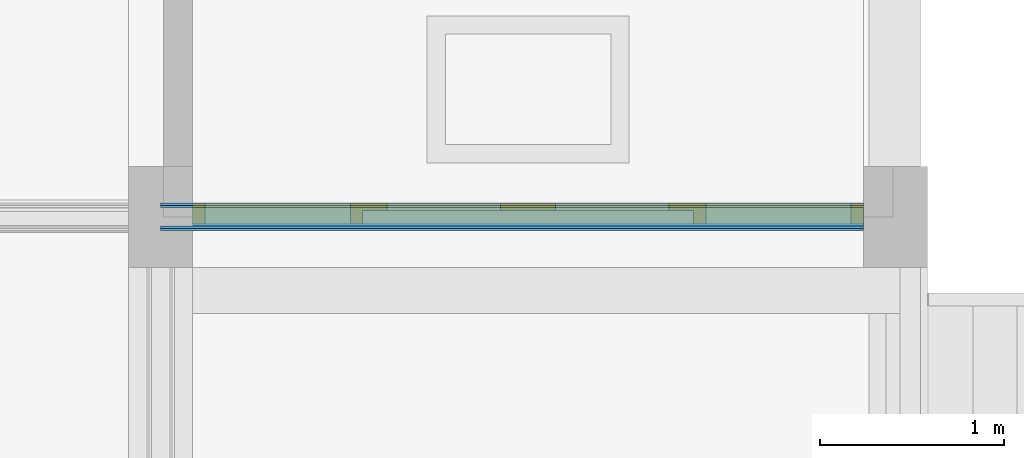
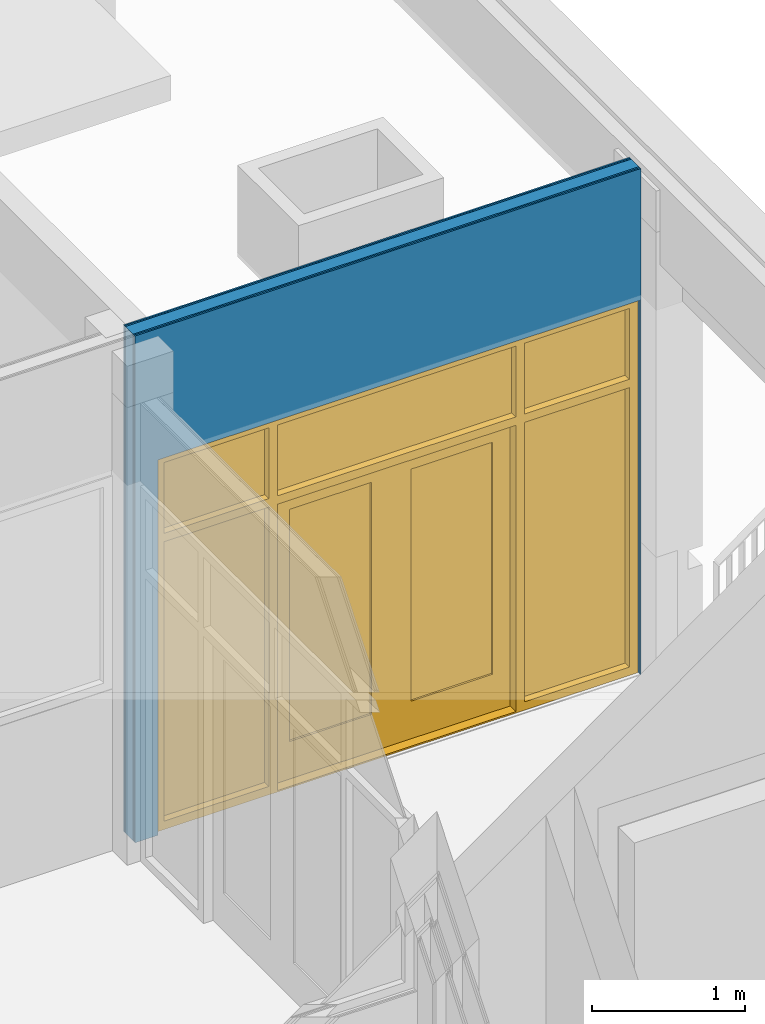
# One storey, part 42 of 54: 5 building element parts, 1 door, 1 opening, 1 element without a shape of its own.
"""IFC2X3 building model written with IfcOpenShell, lengths in millimetres."""

from ifc_helpers import new_model, entity, si_unit, converted_unit, derived_unit, money_unit, direction, frame, origin_with_axes, place, context, subcontext, project, spatial, open_shell, faceted_brep, surface_model, material, type_object, element, fill, aggregate, save


model = new_model("IFC2X3")

# Units and contexts
model_context = context("Model", 3, precision=0.01, world=origin_with_axes(), true_north=direction((0.0, 1.0)))
body_context = subcontext(model_context, "Body", "Model", "MODEL_VIEW")
ifc_project = project(units=[si_unit("LENGTHUNIT", "METRE", prefix="MILLI"), si_unit("AREAUNIT", "SQUARE_METRE"), si_unit("VOLUMEUNIT", "CUBIC_METRE"), converted_unit("PLANEANGLEUNIT", "DEGREE", entity("IfcPlaneAngleMeasure", 0.0174532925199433), si_unit("PLANEANGLEUNIT", "RADIAN"), dimensions=[0, 0, 0, 0, 0, 0, 0]), money_unit("EUR"), converted_unit("TIMEUNIT", "Year", entity("IfcTimeMeasure", 31557600.0), si_unit("TIMEUNIT", "SECOND"), dimensions=[0, 0, 1, 0, 0, 0, 0]), si_unit("MASSUNIT", "GRAM", prefix="KILO"), si_unit("THERMODYNAMICTEMPERATUREUNIT", "DEGREE_CELSIUS"), si_unit("LUMINOUSINTENSITYUNIT", "LUMEN"), si_unit("ENERGYUNIT", "JOULE", prefix="MEGA"), derived_unit("THERMALCONDUCTANCEUNIT", [(si_unit("POWERUNIT", "WATT"), 1), (si_unit("LENGTHUNIT", "METRE"), -1), (si_unit("THERMODYNAMICTEMPERATUREUNIT", "KELVIN"), -1)]), derived_unit("SPECIFICHEATCAPACITYUNIT", [(si_unit("ENERGYUNIT", "JOULE"), 1), (si_unit("MASSUNIT", "GRAM", prefix="KILO"), -1), (si_unit("THERMODYNAMICTEMPERATUREUNIT", "KELVIN"), -1)]), derived_unit("MASSDENSITYUNIT", [(si_unit("MASSUNIT", "GRAM", prefix="KILO"), 1), (si_unit("VOLUMEUNIT", "CUBIC_METRE"), -1)])], contexts=[model_context])

# Site, building, storey
site_placement = place(None, origin_with_axes())
site = spatial("IfcSite", under=ifc_project, at=site_placement, Name="<site naam>", CompositionType="ELEMENT")
building_placement = place(site_placement, origin_with_axes())
building = spatial("IfcBuilding", under=site, at=building_placement, Name="<Naam gebouw>", CompositionType="ELEMENT")
storey_placement = place(building_placement, frame((0.0, 0.0, 8500.0), z_axis=(0.0, 0.0, 1.0), x_axis=(1.0, 0.0, 0.0)))
storey = spatial("IfcBuildingStorey", under=building, at=storey_placement, Name="02 2e verdieping", CompositionType="ELEMENT", Elevation=8500.0)

# Door
door_style = type_object("IfcDoorStyle", Name="D2 bl zl2 27", ConstructionType="NOTDEFINED", OperationType="USERDEFINED", ParameterTakesPrecedence=False, Sizeable=False)
wall_placement = place(storey_placement, frame((48000.00000000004, 12000.00000000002, 0.0), z_axis=(0.0, 0.0, 1.0), x_axis=(1.0, 0.0, 0.0)))
opening_placement = place(wall_placement, frame((1999.936341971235, 0.0, 0.0), z_axis=(0.0, 0.0, 1.0), x_axis=(1.0, 0.0, 0.0)))
door_placement = place(opening_placement, frame((-1824.999978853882, 0.0, 0.0), z_axis=(0.0, 0.0, 1.0), x_axis=(1.0, 0.0, 0.0)))
door = element("IfcDoor", 1, at=door_placement, inside=storey, type_object=door_style, Name="22_BI-D-04_305", ObjectType="DOOR", OverallHeight=3000.0, OverallWidth=3650.0, context=body_context, shape_type="SurfaceModel", body=[
    faceted_brep([(2741.999978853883, 35.00000000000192, 12.00000000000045), (2741.999978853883, 75.00000000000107, 12.00000000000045), (907.99997885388, 75.00000000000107, 12.00000000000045), (907.99997885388, 35.00000000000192, 12.00000000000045), (924.999978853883, 35.00000000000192, 12.00000000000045), (924.999978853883, -38.9999999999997, 12.00000000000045), (2724.99997885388, -38.9999999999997, 12.00000000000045), (2724.99997885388, 35.00000000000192, 12.00000000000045), (2741.999978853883, 35.00000000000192, 0.0), (2741.999978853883, 75.00000000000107, 0.0), (907.99997885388, 75.00000000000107, 0.0), (907.99997885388, 35.00000000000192, 0.0), (924.999978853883, 35.00000000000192, 0.0), (924.999978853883, -38.9999999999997, 0.0), (2724.99997885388, -38.9999999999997, 0.0), (2724.99997885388, 35.00000000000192, 0.0)], [[[0, 1, 2, 3, 4, 5, 6, 7]], [[8, 9, 1, 0]], [[9, 10, 2, 1]], [[11, 3, 2, 10]], [[3, 11, 12, 4]], [[5, 4, 12, 13]], [[6, 5, 13, 14]], [[14, 15, 7, 6]], [[7, 15, 8, 0]], [[15, 14, 13, 12, 11, 10, 9, 8]]]),
    faceted_brep([(3649.999957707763, 75.00000000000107, 0.0), (3649.999957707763, -38.9999999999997, 0.0), (3582.999957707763, -38.9999999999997, 0.0), (3582.999957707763, 75.00000000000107, 0.0), (3649.999957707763, 75.00000000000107, 2933.0), (3649.999957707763, -38.99999999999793, 2933.0), (3582.999957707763, -38.99999999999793, 2933.0), (3582.999957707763, -38.99999999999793, 2367.000000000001), (3582.999957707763, -38.99999999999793, 2300.000000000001), (3582.999957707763, -38.9999999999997, 67.00000000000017), (3582.999957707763, 75.00000000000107, 67.00000000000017), (3582.999957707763, 75.00000000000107, 2300.000000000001), (3582.999957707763, 75.00000000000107, 2367.000000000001), (3582.999957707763, 75.00000000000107, 2933.0)], [[[0, 1, 2, 3]], [[4, 5, 1, 0]], [[1, 5, 6, 7, 8, 9, 2]], [[3, 2, 9, 10]], [[0, 3, 10, 11, 12, 13, 4]], [[13, 6, 5, 4]], [[12, 7, 6, 13]], [[11, 8, 7, 12]], [[10, 9, 8, 11]]]),
    faceted_brep([(2724.99997885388, 35.00000000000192, 2317.0), (2724.99997885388, 35.00000000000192, 2300.000000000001), (2724.99997885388, -38.99999999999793, 2300.000000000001), (2724.99997885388, -38.99999999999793, 2367.000000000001), (2724.99997885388, 75.00000000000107, 2367.000000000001), (2724.99997885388, 75.00000000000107, 2317.0), (2741.999978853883, 35.00000000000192, 2317.0), (2741.999978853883, 35.00000000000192, 0.0), (2724.99997885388, 35.00000000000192, 0.0), (2724.99997885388, -38.9999999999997, 0.0), (2791.99997885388, -38.9999999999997, 0.0), (2791.99997885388, -38.9999999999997, 67.00000000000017), (2791.99997885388, -38.99999999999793, 2300.000000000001), (2791.99997885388, -38.99999999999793, 2367.000000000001), (2791.99997885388, -38.99999999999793, 2933.0), (2724.99997885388, -38.99999999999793, 2933.0), (2724.99997885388, 75.00000000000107, 2933.0), (2741.999978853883, 75.00000000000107, 2317.0), (2791.99997885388, 75.00000000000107, 2933.0), (2791.99997885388, 75.00000000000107, 2367.000000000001), (2791.99997885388, 75.00000000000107, 2300.000000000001), (2791.99997885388, 75.00000000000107, 67.00000000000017), (2791.99997885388, 75.00000000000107, 0.0), (2741.999978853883, 75.00000000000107, 0.0)], [[[0, 1, 2, 3, 4, 5]], [[0, 6, 7, 8, 1]], [[8, 9, 2, 1]], [[2, 9, 10, 11, 12, 13, 14, 15, 3]], [[16, 4, 3, 15]], [[17, 5, 4, 16, 18, 19, 20, 21, 22, 23]], [[5, 17, 6, 0]], [[23, 7, 6, 17]], [[7, 23, 22, 10, 9, 8]], [[22, 21, 11, 10]], [[21, 20, 12, 11]], [[20, 19, 13, 12]], [[19, 18, 14, 13]], [[18, 16, 15, 14]]]),
    faceted_brep([(3582.999957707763, 75.00000000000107, 67.00000000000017), (3582.999957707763, -38.9999999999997, 67.00000000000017), (3582.999957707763, -38.9999999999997, 0.0), (3582.999957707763, 75.00000000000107, 0.0), (2791.99997885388, 75.00000000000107, 67.00000000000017), (2791.99997885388, -38.9999999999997, 67.00000000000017), (2791.99997885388, -38.9999999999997, 0.0), (2791.99997885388, 75.00000000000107, 0.0)], [[[0, 1, 2, 3]], [[4, 5, 1, 0]], [[1, 5, 6, 2]], [[3, 2, 6, 7]], [[0, 3, 7, 4]], [[7, 6, 5, 4]]]),
    faceted_brep([(0.0, 75.00000000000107, 0.0), (0.0, -38.9999999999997, 0.0), (0.0, -38.99999999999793, 2933.0), (0.0, 75.00000000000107, 2933.0), (67.00000000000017, 75.00000000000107, 0.0), (67.00000000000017, -38.9999999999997, 0.0), (67.00000000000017, -38.9999999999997, 67.00000000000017), (67.00000000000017, -38.99999999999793, 2300.000000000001), (67.00000000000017, -38.99999999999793, 2367.000000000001), (67.00000000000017, -38.99999999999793, 2933.0), (67.00000000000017, 75.00000000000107, 2933.0), (67.00000000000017, 75.00000000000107, 2367.000000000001), (67.00000000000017, 75.00000000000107, 2300.000000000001), (67.00000000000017, 75.00000000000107, 67.00000000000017)], [[[0, 1, 2, 3]], [[4, 5, 1, 0]], [[1, 5, 6, 7, 8, 9, 2]], [[3, 2, 9, 10]], [[0, 3, 10, 11, 12, 13, 4]], [[13, 6, 5, 4]], [[12, 7, 6, 13]], [[11, 8, 7, 12]], [[10, 9, 8, 11]]]),
    faceted_brep([(907.99997885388, 75.00000000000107, 2317.0), (907.99997885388, 75.00000000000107, 0.0), (857.9999788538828, 75.00000000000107, 0.0), (857.9999788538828, 75.00000000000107, 67.00000000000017), (857.9999788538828, 75.00000000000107, 2300.000000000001), (857.9999788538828, 75.00000000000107, 2367.000000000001), (857.9999788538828, 75.00000000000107, 2933.0), (924.999978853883, 75.00000000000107, 2933.0), (924.999978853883, 75.00000000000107, 2367.000000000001), (924.999978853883, 75.00000000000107, 2317.0), (907.99997885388, 35.00000000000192, 2317.0), (907.99997885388, 35.00000000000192, 0.0), (924.999978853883, 35.00000000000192, 0.0), (924.999978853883, -38.9999999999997, 0.0), (857.9999788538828, -38.9999999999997, 0.0), (857.9999788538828, -38.9999999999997, 67.00000000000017), (857.9999788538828, -38.99999999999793, 2300.000000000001), (857.9999788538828, -38.99999999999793, 2367.000000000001), (857.9999788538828, -38.99999999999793, 2933.0), (924.999978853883, -38.99999999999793, 2933.0), (924.999978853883, -38.99999999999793, 2367.000000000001), (924.999978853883, 35.00000000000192, 2317.0), (924.999978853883, -38.99999999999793, 2300.000000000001), (924.999978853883, 35.00000000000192, 2300.000000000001)], [[[0, 1, 2, 3, 4, 5, 6, 7, 8, 9]], [[0, 10, 11, 1]], [[11, 12, 13, 14, 2, 1]], [[3, 2, 14, 15]], [[4, 3, 15, 16]], [[5, 4, 16, 17]], [[6, 5, 17, 18]], [[7, 6, 18, 19]], [[8, 7, 19, 20]], [[21, 9, 8, 20, 22, 23]], [[9, 21, 10, 0]], [[11, 10, 21, 23, 12]], [[23, 22, 13, 12]], [[15, 14, 13, 22, 20, 19, 18, 17, 16]]]),
    faceted_brep([(857.9999788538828, 75.00000000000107, 67.00000000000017), (857.9999788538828, -38.9999999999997, 67.00000000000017), (857.9999788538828, -38.9999999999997, 0.0), (857.9999788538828, 75.00000000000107, 0.0), (67.00000000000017, 75.00000000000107, 67.00000000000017), (67.00000000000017, -38.9999999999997, 67.00000000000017), (67.00000000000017, -38.9999999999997, 0.0), (67.00000000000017, 75.00000000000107, 0.0)], [[[0, 1, 2, 3]], [[4, 5, 1, 0]], [[1, 5, 6, 2]], [[3, 2, 6, 7]], [[0, 3, 7, 4]], [[7, 6, 5, 4]]]),
    faceted_brep([(3649.999957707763, 75.00000000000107, 3000.0), (3649.999957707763, -38.99999999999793, 3000.0), (3649.999957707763, -38.99999999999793, 2933.0), (3649.999957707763, 75.00000000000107, 2933.0), (0.0, 75.00000000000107, 3000.0), (0.0, -38.99999999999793, 3000.0), (0.0, -38.99999999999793, 2933.0), (67.00000000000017, -38.99999999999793, 2933.0), (857.9999788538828, -38.99999999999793, 2933.0), (924.999978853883, -38.99999999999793, 2933.0), (2724.99997885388, -38.99999999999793, 2933.0), (2791.99997885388, -38.99999999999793, 2933.0), (3582.999957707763, -38.99999999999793, 2933.0), (3582.999957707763, 75.00000000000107, 2933.0), (2791.99997885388, 75.00000000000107, 2933.0), (2724.99997885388, 75.00000000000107, 2933.0), (924.999978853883, 75.00000000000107, 2933.0), (857.9999788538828, 75.00000000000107, 2933.0), (67.00000000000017, 75.00000000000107, 2933.0), (0.0, 75.00000000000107, 2933.0)], [[[0, 1, 2, 3]], [[4, 5, 1, 0]], [[1, 5, 6, 7, 8, 9, 10, 11, 12, 2]], [[3, 2, 12, 13]], [[0, 3, 13, 14, 15, 16, 17, 18, 19, 4]], [[19, 6, 5, 4]], [[18, 7, 6, 19]], [[17, 8, 7, 18]], [[16, 9, 8, 17]], [[15, 10, 9, 16]], [[14, 11, 10, 15]], [[13, 12, 11, 14]]]),
    faceted_brep([(3582.999957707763, 75.00000000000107, 2300.000000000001), (3582.999957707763, -38.99999999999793, 2300.000000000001), (2791.99997885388, -38.99999999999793, 2300.000000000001), (2791.99997885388, 75.00000000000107, 2300.000000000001), (3582.999957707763, 75.00000000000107, 2367.000000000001), (3582.999957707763, -38.99999999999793, 2367.000000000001), (2791.99997885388, -38.99999999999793, 2367.000000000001), (2791.99997885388, 75.00000000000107, 2367.000000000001)], [[[0, 1, 2, 3]], [[4, 5, 1, 0]], [[1, 5, 6, 2]], [[3, 2, 6, 7]], [[0, 3, 7, 4]], [[7, 6, 5, 4]]]),
    faceted_brep([(67.00000000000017, 75.00000000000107, 2367.000000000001), (67.00000000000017, -38.99999999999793, 2367.000000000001), (857.9999788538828, -38.99999999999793, 2367.000000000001), (857.9999788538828, 75.00000000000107, 2367.000000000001), (67.00000000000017, 75.00000000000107, 2300.000000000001), (67.00000000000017, -38.99999999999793, 2300.000000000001), (857.9999788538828, -38.99999999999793, 2300.000000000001), (857.9999788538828, 75.00000000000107, 2300.000000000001)], [[[0, 1, 2, 3]], [[4, 5, 1, 0]], [[1, 5, 6, 2]], [[3, 2, 6, 7]], [[0, 3, 7, 4]], [[7, 6, 5, 4]]]),
    faceted_brep([(924.999978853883, 35.00000000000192, 2317.0), (924.999978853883, 35.00000000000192, 2300.000000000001), (924.999978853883, -38.99999999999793, 2300.000000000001), (924.999978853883, -38.99999999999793, 2367.000000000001), (924.999978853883, 75.00000000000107, 2367.000000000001), (924.999978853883, 75.00000000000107, 2317.0), (2724.99997885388, 35.00000000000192, 2317.0), (2724.99997885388, 35.00000000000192, 2300.000000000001), (2724.99997885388, -38.99999999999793, 2300.000000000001), (2724.99997885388, -38.99999999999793, 2367.000000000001), (2724.99997885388, 75.00000000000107, 2367.000000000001), (2724.99997885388, 75.00000000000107, 2317.0)], [[[0, 1, 2, 3, 4, 5]], [[0, 6, 7, 1]], [[7, 8, 2, 1]], [[8, 9, 3, 2]], [[10, 4, 3, 9]], [[5, 4, 10, 11]], [[5, 11, 6, 0]], [[6, 11, 10, 9, 8, 7]]]),
    faceted_brep([(907.99997885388, 75.00000000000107, 311.9999999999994), (1057.999978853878, 75.00000000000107, 311.9999999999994), (1057.999978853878, 35.00000000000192, 311.9999999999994), (907.99997885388, 35.00000000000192, 311.9999999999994), (907.99997885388, 75.00000000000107, 2167.0), (1057.999978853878, 75.00000000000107, 2167.0), (1057.999978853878, 35.00000000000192, 2167.0), (907.99997885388, 35.00000000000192, 2167.0)], [[[0, 1, 2, 3]], [[0, 4, 5, 1]], [[1, 5, 6, 2]], [[3, 2, 6, 7]], [[4, 0, 3, 7]], [[5, 4, 7, 6]]]),
    faceted_brep([(1824.999978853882, 75.00000000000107, 311.9999999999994), (1824.999978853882, 75.00000000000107, 2167.0), (1824.999978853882, 35.00000000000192, 2167.0), (1824.999978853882, 35.00000000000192, 311.9999999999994), (1674.999978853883, 75.00000000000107, 311.9999999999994), (1674.999978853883, 75.00000000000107, 2167.0), (1674.999978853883, 35.00000000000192, 2167.0), (1674.999978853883, 35.00000000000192, 311.9999999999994)], [[[0, 1, 2, 3]], [[0, 4, 5, 1]], [[1, 5, 6, 2]], [[3, 2, 6, 7]], [[4, 0, 3, 7]], [[5, 4, 7, 6]]]),
    faceted_brep([(907.99997885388, 75.00000000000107, 12.00000000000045), (1824.999978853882, 75.00000000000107, 12.00000000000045), (1824.999978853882, 35.00000000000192, 12.00000000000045), (907.99997885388, 35.00000000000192, 12.00000000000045), (907.99997885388, 75.00000000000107, 311.9999999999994), (1057.999978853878, 75.00000000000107, 311.9999999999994), (1674.999978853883, 75.00000000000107, 311.9999999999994), (1824.999978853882, 75.00000000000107, 311.9999999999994), (1824.999978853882, 35.00000000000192, 311.9999999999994), (1674.999978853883, 35.00000000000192, 311.9999999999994), (1057.999978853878, 35.00000000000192, 311.9999999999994), (907.99997885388, 35.00000000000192, 311.9999999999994)], [[[0, 1, 2, 3]], [[0, 4, 5, 6, 7, 1]], [[1, 7, 8, 2]], [[3, 2, 8, 9, 10, 11]], [[4, 0, 3, 11]], [[5, 4, 11, 10]], [[6, 5, 10, 9]], [[7, 6, 9, 8]]]),
    faceted_brep([(907.99997885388, 75.00000000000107, 2317.0), (907.99997885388, 75.00000000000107, 2167.0), (907.99997885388, 35.00000000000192, 2167.0), (907.99997885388, 35.00000000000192, 2317.0), (1824.999978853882, 75.00000000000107, 2317.0), (1824.999978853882, 75.00000000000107, 2167.0), (1674.999978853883, 75.00000000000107, 2167.0), (1057.999978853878, 75.00000000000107, 2167.0), (1057.999978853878, 35.00000000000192, 2167.0), (1674.999978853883, 35.00000000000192, 2167.0), (1824.999978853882, 35.00000000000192, 2167.0), (1824.999978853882, 35.00000000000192, 2317.0)], [[[0, 1, 2, 3]], [[0, 4, 5, 6, 7, 1]], [[1, 7, 8, 2]], [[3, 2, 8, 9, 10, 11]], [[4, 0, 3, 11]], [[5, 4, 11, 10]], [[6, 5, 10, 9]], [[7, 6, 9, 8]]]),
    surface_model("IfcShellBasedSurfaceModel", [(1057.999978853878, 61.00000000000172, 311.9999999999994), (1057.999978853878, 61.00000000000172, 2167.0), (1674.999978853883, 61.00000000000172, 2167.0), (1674.999978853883, 61.00000000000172, 311.9999999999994)], [open_shell([[[0, 1, 2, 3]]])]),
    surface_model("IfcShellBasedSurfaceModel", [(1057.999978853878, 49.00000000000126, 311.9999999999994), (1674.999978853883, 49.00000000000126, 311.9999999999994), (1674.999978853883, 49.00000000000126, 2167.0), (1057.999978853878, 49.00000000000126, 2167.0)], [open_shell([[[0, 1, 2, 3]]])]),
    faceted_brep([(2741.999978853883, 75.00000000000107, 311.9999999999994), (2741.999978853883, 35.00000000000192, 311.9999999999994), (2591.999978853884, 35.00000000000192, 311.9999999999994), (2591.999978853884, 75.00000000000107, 311.9999999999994), (2741.999978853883, 75.00000000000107, 2167.0), (2741.999978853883, 35.00000000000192, 2167.0), (2591.999978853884, 35.00000000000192, 2167.0), (2591.999978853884, 75.00000000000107, 2167.0)], [[[0, 1, 2, 3]], [[4, 5, 1, 0]], [[1, 5, 6, 2]], [[3, 2, 6, 7]], [[0, 3, 7, 4]], [[7, 6, 5, 4]]]),
    faceted_brep([(1824.999978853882, 75.00000000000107, 311.9999999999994), (1824.999978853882, 35.00000000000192, 311.9999999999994), (1824.999978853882, 35.00000000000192, 2167.0), (1824.999978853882, 75.00000000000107, 2167.0), (1974.99997885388, 75.00000000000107, 311.9999999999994), (1974.99997885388, 35.00000000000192, 311.9999999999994), (1974.99997885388, 35.00000000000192, 2167.0), (1974.99997885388, 75.00000000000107, 2167.0)], [[[0, 1, 2, 3]], [[4, 5, 1, 0]], [[1, 5, 6, 2]], [[3, 2, 6, 7]], [[0, 3, 7, 4]], [[7, 6, 5, 4]]]),
    faceted_brep([(2741.999978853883, 75.00000000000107, 12.00000000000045), (2741.999978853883, 35.00000000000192, 12.00000000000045), (1824.999978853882, 35.00000000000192, 12.00000000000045), (1824.999978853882, 75.00000000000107, 12.00000000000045), (2741.999978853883, 75.00000000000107, 311.9999999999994), (2741.999978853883, 35.00000000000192, 311.9999999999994), (2591.999978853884, 35.00000000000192, 311.9999999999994), (1974.99997885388, 35.00000000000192, 311.9999999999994), (1824.999978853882, 35.00000000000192, 311.9999999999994), (1824.999978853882, 75.00000000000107, 311.9999999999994), (1974.99997885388, 75.00000000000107, 311.9999999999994), (2591.999978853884, 75.00000000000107, 311.9999999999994)], [[[0, 1, 2, 3]], [[4, 5, 1, 0]], [[1, 5, 6, 7, 8, 2]], [[3, 2, 8, 9]], [[0, 3, 9, 10, 11, 4]], [[11, 6, 5, 4]], [[10, 7, 6, 11]], [[9, 8, 7, 10]]]),
    faceted_brep([(2741.999978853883, 75.00000000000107, 2317.0), (2741.999978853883, 35.00000000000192, 2317.0), (2741.999978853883, 35.00000000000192, 2167.0), (2741.999978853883, 75.00000000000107, 2167.0), (1824.999978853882, 75.00000000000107, 2317.0), (1824.999978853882, 35.00000000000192, 2317.0), (1824.999978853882, 35.00000000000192, 2167.0), (1974.99997885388, 35.00000000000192, 2167.0), (2591.999978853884, 35.00000000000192, 2167.0), (2591.999978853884, 75.00000000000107, 2167.0), (1974.99997885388, 75.00000000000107, 2167.0), (1824.999978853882, 75.00000000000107, 2167.0)], [[[0, 1, 2, 3]], [[4, 5, 1, 0]], [[1, 5, 6, 7, 8, 2]], [[3, 2, 8, 9]], [[0, 3, 9, 10, 11, 4]], [[11, 6, 5, 4]], [[10, 7, 6, 11]], [[9, 8, 7, 10]]]),
    surface_model("IfcShellBasedSurfaceModel", [(2591.999978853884, 61.00000000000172, 311.9999999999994), (1974.99997885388, 61.00000000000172, 311.9999999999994), (1974.99997885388, 61.00000000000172, 2167.0), (2591.999978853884, 61.00000000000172, 2167.0)], [open_shell([[[0, 1, 2, 3]]])]),
    surface_model("IfcShellBasedSurfaceModel", [(2591.999978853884, 49.00000000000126, 311.9999999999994), (2591.999978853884, 49.00000000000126, 2167.0), (1974.99997885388, 49.00000000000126, 2167.0), (1974.99997885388, 49.00000000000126, 311.9999999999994)], [open_shell([[[0, 1, 2, 3]]])]),
    surface_model("IfcShellBasedSurfaceModel", [(3582.999957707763, 15.00000000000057, 2367.000000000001), (3582.999957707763, 15.00000000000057, 2933.0), (2791.99997885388, 15.00000000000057, 2933.0), (2791.99997885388, 15.00000000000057, 2367.000000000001)], [open_shell([[[0, 1, 2, 3]]])]),
    surface_model("IfcShellBasedSurfaceModel", [(3582.999957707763, 27.00000000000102, 2367.000000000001), (2791.99997885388, 27.00000000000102, 2367.000000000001), (2791.99997885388, 27.00000000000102, 2933.0), (3582.999957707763, 27.00000000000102, 2933.0)], [open_shell([[[0, 1, 2, 3]]])]),
    surface_model("IfcShellBasedSurfaceModel", [(2724.99997885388, 15.00000000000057, 2367.000000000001), (2724.99997885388, 15.00000000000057, 2933.0), (924.999978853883, 15.00000000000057, 2933.0), (924.999978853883, 15.00000000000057, 2367.000000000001)], [open_shell([[[0, 1, 2, 3]]])]),
    surface_model("IfcShellBasedSurfaceModel", [(2724.99997885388, 27.00000000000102, 2367.000000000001), (924.999978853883, 27.00000000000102, 2367.000000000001), (924.999978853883, 27.00000000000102, 2933.0), (2724.99997885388, 27.00000000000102, 2933.0)], [open_shell([[[0, 1, 2, 3]]])]),
    surface_model("IfcShellBasedSurfaceModel", [(857.9999788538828, 15.00000000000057, 2367.000000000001), (857.9999788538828, 15.00000000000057, 2933.0), (67.00000000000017, 15.00000000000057, 2933.0), (67.00000000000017, 15.00000000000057, 2367.000000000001)], [open_shell([[[0, 1, 2, 3]]])]),
    surface_model("IfcShellBasedSurfaceModel", [(857.9999788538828, 27.00000000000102, 2367.000000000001), (67.00000000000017, 27.00000000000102, 2367.000000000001), (67.00000000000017, 27.00000000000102, 2933.0), (857.9999788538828, 27.00000000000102, 2933.0)], [open_shell([[[0, 1, 2, 3]]])]),
    surface_model("IfcShellBasedSurfaceModel", [(3582.999957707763, 15.00000000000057, 67.00000000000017), (3582.999957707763, 15.00000000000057, 2300.000000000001), (2791.99997885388, 15.00000000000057, 2300.000000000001), (2791.99997885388, 15.00000000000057, 67.00000000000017)], [open_shell([[[0, 1, 2, 3]]])]),
    surface_model("IfcShellBasedSurfaceModel", [(3582.999957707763, 27.00000000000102, 67.00000000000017), (2791.99997885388, 27.00000000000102, 67.00000000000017), (2791.99997885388, 27.00000000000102, 2300.000000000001), (3582.999957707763, 27.00000000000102, 2300.000000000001)], [open_shell([[[0, 1, 2, 3]]])]),
    surface_model("IfcShellBasedSurfaceModel", [(857.9999788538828, 15.00000000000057, 67.00000000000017), (857.9999788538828, 15.00000000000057, 2300.000000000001), (67.00000000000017, 15.00000000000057, 2300.000000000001), (67.00000000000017, 15.00000000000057, 67.00000000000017)], [open_shell([[[0, 1, 2, 3]]])]),
    surface_model("IfcShellBasedSurfaceModel", [(857.9999788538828, 27.00000000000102, 67.00000000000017), (67.00000000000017, 27.00000000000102, 67.00000000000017), (67.00000000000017, 27.00000000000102, 2300.000000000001), (857.9999788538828, 27.00000000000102, 2300.000000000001)], [open_shell([[[0, 1, 2, 3]]])]),
])

# Wall, opening
wall_type = type_object("IfcWallType", Name="MS-01 GF 150 ECO DGS/2.100.2.A 150", PredefinedType="NOTDEFINED")
wall = element("IfcWall", 2, at=wall_placement, inside=storey, type_object=wall_type, Name="22_Binnenwand_MS-01")
opening = element("IfcOpeningElement", 3, at=opening_placement, cuts=wall, Name="22_BI-D-04_305", context=body_context, shape_type="Brep", body=[
    faceted_brep([(-1824.999978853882, -75.99999999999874, 3000.0), (-1824.999978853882, -75.99999999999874, 0.0), (1824.999978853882, -75.99999999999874, 0.0), (1824.999978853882, -75.99999999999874, 3000.0), (-1824.999978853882, 75.99999999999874, 3000.0), (-1824.999978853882, 75.99999999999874, 0.0), (1824.999978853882, 75.99999999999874, 0.0), (1824.999978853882, 75.99999999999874, 3000.0)], [[[0, 1, 2, 3]], [[4, 5, 1, 0]], [[5, 6, 2, 1]], [[6, 7, 3, 2]], [[7, 4, 0, 3]], [[6, 5, 4, 7]]]),
])

fill(opening, door)

# Building element part
ifc_material_1 = material(Name="gipsplaat")
building_element_part_1_placement = place(wall_placement, origin_with_axes())
building_element_part_1 = element("IfcBuildingElementPart", 4, at=building_element_part_1_placement, material=ifc_material_1, Name="gipsplaat", context=body_context, shape_type="Brep", body=[
    faceted_brep([(0.0, 75.00000000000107, 4050.000014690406), (3825.000000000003, 75.00000000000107, 4050.000014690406), (3825.000000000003, 75.00000000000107, 0.0), (3824.984182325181, 75.00000000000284, 0.0), (3824.984182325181, 75.00000000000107, 3.000000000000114), (174.9999999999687, 74.99999999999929, 3.000000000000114), (174.9999999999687, 74.99999999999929, 0.0), (0.0, 74.99999999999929, 0.0), (3825.000000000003, 62.5, 4050.000014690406), (0.0, 62.5, 4050.000014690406), (3825.000000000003, 62.5, 0.0), (3824.984182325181, 62.5, 0.0), (3824.984182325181, 62.5, 3.000000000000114), (174.9999999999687, 62.5, 3.000000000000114), (174.9999999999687, 62.5, 0.0), (0.0, 62.5, 0.0)], [[[0, 1, 2, 3, 4, 5, 6, 7]], [[8, 1, 0, 9]], [[1, 8, 10, 2]], [[2, 10, 11, 3]], [[11, 12, 4, 3]], [[12, 13, 5, 4]], [[13, 14, 6, 5]], [[15, 7, 6, 14]], [[9, 0, 7, 15]], [[8, 9, 15, 14, 13, 12, 11, 10]]]),
])

building_element_part_2_placement = place(wall_placement, origin_with_axes())
building_element_part_2 = element("IfcBuildingElementPart", 5, at=building_element_part_2_placement, material=ifc_material_1, Name="gipsplaat", context=body_context, shape_type="Brep", body=[
    faceted_brep([(0.0, 62.5, 4050.000014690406), (3825.000000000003, 62.5, 4050.000014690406), (3825.000000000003, 62.5, 0.0), (3824.984182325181, 62.5, 0.0), (3824.984182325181, 62.5, 3.000000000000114), (174.9999999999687, 62.5, 3.000000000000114), (174.9999999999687, 62.5, 0.0), (0.0, 62.5, 0.0), (3825.000000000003, 50.00000000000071, 4050.000014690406), (0.0, 50.00000000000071, 4050.000014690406), (3825.000000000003, 50.00000000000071, 0.0), (3824.984182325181, 50.00000000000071, 0.0), (3824.984182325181, 50.00000000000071, 3.000000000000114), (174.9999999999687, 50.00000000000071, 3.000000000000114), (174.9999999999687, 50.00000000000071, 0.0), (0.0, 50.00000000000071, 0.0)], [[[0, 1, 2, 3, 4, 5, 6, 7]], [[8, 1, 0, 9]], [[1, 8, 10, 2]], [[2, 10, 11, 3]], [[11, 12, 4, 3]], [[12, 13, 5, 4]], [[13, 14, 6, 5]], [[15, 7, 6, 14]], [[9, 0, 7, 15]], [[8, 9, 15, 14, 13, 12, 11, 10]]]),
])

ifc_material_2 = material(Name="isolatie_steenwol LSW")
building_element_part_3_placement = place(wall_placement, origin_with_axes())
building_element_part_3 = element("IfcBuildingElementPart", 6, at=building_element_part_3_placement, material=ifc_material_2, Name="isolatie_steenwol LSW", context=body_context, shape_type="Brep", body=[
    faceted_brep([(0.0, 50.00000000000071, 4050.000014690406), (3825.000000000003, 50.00000000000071, 4050.000014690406), (3825.000000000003, 50.00000000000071, 0.0), (3824.984182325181, 50.00000000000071, 0.0), (3824.984182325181, 50.00000000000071, 3.000000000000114), (174.9999999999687, 50.00000000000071, 3.000000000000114), (174.9999999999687, 50.00000000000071, 0.0), (0.0, 50.00000000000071, 0.0), (3825.000000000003, -49.99999999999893, 4050.000014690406), (0.0, -49.99999999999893, 4050.000014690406), (3825.000000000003, -49.99999999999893, 0.0), (174.9999999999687, 22.55598975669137, 0.0), (3824.984182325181, 22.55598975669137, 0.0), (0.0, -50.00000000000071, 0.0), (3824.984182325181, 22.55598975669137, 3.000000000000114), (174.9999999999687, 22.55598975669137, 3.000000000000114)], [[[0, 1, 2, 3, 4, 5, 6, 7]], [[8, 1, 0, 9]], [[1, 8, 10, 2]], [[6, 11, 12, 3, 2, 10, 13, 7]], [[12, 14, 4, 3]], [[14, 15, 5, 4]], [[15, 11, 6, 5]], [[9, 0, 7, 13]], [[8, 9, 13, 10]], [[15, 14, 12, 11]]]),
])

building_element_part_4_placement = place(wall_placement, origin_with_axes())
building_element_part_4 = element("IfcBuildingElementPart", 7, at=building_element_part_4_placement, material=ifc_material_1, Name="gipsplaat", context=body_context, shape_type="Brep", body=[
    faceted_brep([(0.0, -49.99999999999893, 4050.000014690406), (3825.000000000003, -49.99999999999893, 4050.000014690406), (3825.000000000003, -49.99999999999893, 0.0), (0.0, -50.00000000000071, 0.0), (3825.000000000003, -62.5, 4050.000014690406), (0.0, -62.5, 4050.000014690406), (3825.000000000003, -62.5, 0.0), (0.0, -62.5, 0.0)], [[[0, 1, 2, 3]], [[4, 1, 0, 5]], [[1, 4, 6, 2]], [[7, 3, 2, 6]], [[5, 0, 3, 7]], [[4, 5, 7, 6]]]),
])

building_element_part_5_placement = place(wall_placement, origin_with_axes())
building_element_part_5 = element("IfcBuildingElementPart", 8, at=building_element_part_5_placement, material=ifc_material_1, Name="gipsplaat", context=body_context, shape_type="Brep", body=[
    faceted_brep([(0.0, -62.5, 4050.000014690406), (3825.000000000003, -62.5, 4050.000014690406), (3825.000000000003, -62.5, 0.0), (0.0, -62.5, 0.0), (3825.000000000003, -74.99999999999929, 4050.000014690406), (0.0, -74.99999999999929, 4050.000014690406), (3825.000000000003, -74.99999999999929, 0.0), (0.0, -74.99999999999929, 0.0)], [[[0, 1, 2, 3]], [[4, 1, 0, 5]], [[1, 4, 6, 2]], [[7, 3, 2, 6]], [[5, 0, 3, 7]], [[4, 5, 7, 6]]]),
])

aggregate(wall, [building_element_part_1, building_element_part_2, building_element_part_3, building_element_part_4, building_element_part_5])

save(model, "model.ifc")
